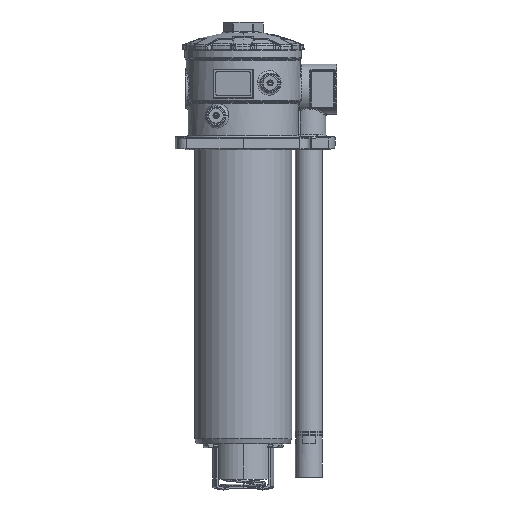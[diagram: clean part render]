
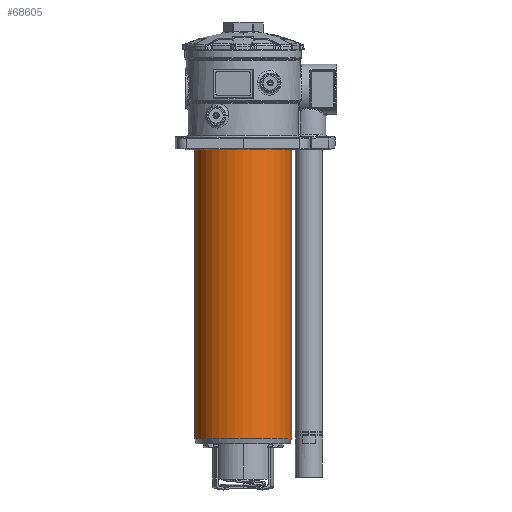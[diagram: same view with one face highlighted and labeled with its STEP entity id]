
A CAD part, left-side view. The second image highlights one B-rep face of the part: STEP entity #68605.
In plain terms, the highlighted cylindrical face has radius 50.25 mm (diameter 100.5 mm), a partial arc.
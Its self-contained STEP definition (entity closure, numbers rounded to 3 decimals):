
#13622=CARTESIAN_POINT('',(0.,0.,0.));
#13623=DIRECTION('',(0.,0.,-1.));
#13624=DIRECTION('',(0.,-1.,0.));
#13625=AXIS2_PLACEMENT_3D('',#13622,#13623,#13624);
#13638=DIRECTION('',(0.,0.,-1.));
#13639=VECTOR('',#13638,300.1);
#13640=CARTESIAN_POINT('',(0.,50.25,0.));
#13641=LINE('',#13640,#13639);
#13645=DIRECTION('',(0.,0.,-1.));
#13646=VECTOR('',#13645,300.1);
#13647=CARTESIAN_POINT('',(0.,-50.25,0.));
#13648=LINE('',#13647,#13646);
#13674=CARTESIAN_POINT('',(0.,0.,-300.1));
#13675=DIRECTION('',(0.,0.,1.));
#13676=DIRECTION('',(0.,1.,0.));
#13677=AXIS2_PLACEMENT_3D('',#13674,#13675,#13676);
#52400=CARTESIAN_POINT('',(0.,-50.25,-300.1));
#52402=VERTEX_POINT('',#52400);
#52404=CARTESIAN_POINT('',(0.,50.25,-300.1));
#52406=VERTEX_POINT('',#52404);
#55676=CARTESIAN_POINT('',(0.,-50.25,0.));
#55677=CARTESIAN_POINT('',(0.,50.25,0.));
#55678=VERTEX_POINT('',#55676);
#55679=VERTEX_POINT('',#55677);
#68591=CARTESIAN_POINT('',(0.,0.,
-148.037));
#68592=DIRECTION('',(0.,0.,-1.));
#68593=DIRECTION('',(0.,-1.,0.));
#68594=AXIS2_PLACEMENT_3D('',#68591,#68592,#68593);
#68595=CYLINDRICAL_SURFACE('',#68594,50.25);
#68596=ORIENTED_EDGE('',*,*,#68557,.F.);
#68598=ORIENTED_EDGE('',*,*,#68597,.T.);
#68600=ORIENTED_EDGE('',*,*,#68599,.F.);
#68602=ORIENTED_EDGE('',*,*,#68601,.F.);
#68603=EDGE_LOOP('',(#68596,#68598,#68600,#68602));
#68604=FACE_OUTER_BOUND('',#68603,.F.);
#13626=CIRCLE('',#13625,50.25);
#13678=CIRCLE('',#13677,50.25);
#68557=EDGE_CURVE('',#55678,#55679,#13626,.T.);
#68597=EDGE_CURVE('',#55678,#52402,#13648,.T.);
#68599=EDGE_CURVE('',#52406,#52402,#13678,.T.);
#68601=EDGE_CURVE('',#55679,#52406,#13641,.T.);
#68605=ADVANCED_FACE('',(#68604),#68595,.T.);
